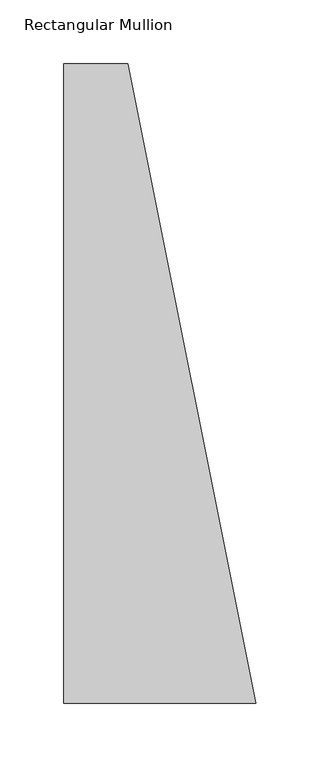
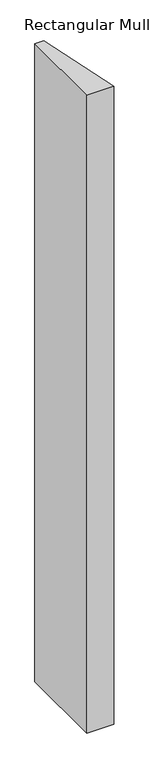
"""IFC4 building model written with IfcOpenShell, lengths in millimetres: member geometry, Rectangular Mullion : 500(350+150)x150x50mm."""

from ifc_helpers import new_model, si_unit, frame, origin, place, context, project, spatial, polyline, outline, extrude, source, transform, mapped, element, save


def rectangular_mullion_5d275d64(model_context):
    return source(origin(), model_context, "Body", "SweptSolid", [
        extrude(outline(polyline([(-150.0, 150.0), (-100.0, 150.0), (0.0, -350.0), (-150.0, -350.0), (-150.0, 150.0)])), frame((0.0, 0.0, -3750.0), z_axis=(0.0, 0.0, 1.0), x_axis=(1.0, 0.0, 0.0)), (0.0, 0.0, 1.0), 3750.0),
    ])


if __name__ == "__main__":
    model = new_model("IFC4")
    model_context = context("Model", 3, world=origin())
    ifc_project = project(units=[si_unit("LENGTHUNIT", "METRE", prefix="MILLI")], contexts=[model_context])
    site = spatial("IfcSite", under=ifc_project)
    building = spatial("IfcBuilding", under=site)
    placement = place(None, origin())
    rectangular_mullion_shape = rectangular_mullion_5d275d64(model_context)
    element("IfcMember", 1, ObjectType="Rectangular Mullion : 500(350+150)x150x50mm", at=placement, inside=building, context=model_context, shape_type="MappedRepresentation", body=[
        mapped(rectangular_mullion_shape, transform((0.0, 0.0, 0.0), x_axis=(1.0, 0.0, 0.0), y_axis=(0.0, 1.0, 0.0), z_axis=(0.0, 0.0, 1.0))),
    ])
    save(model, "model.ifc")
